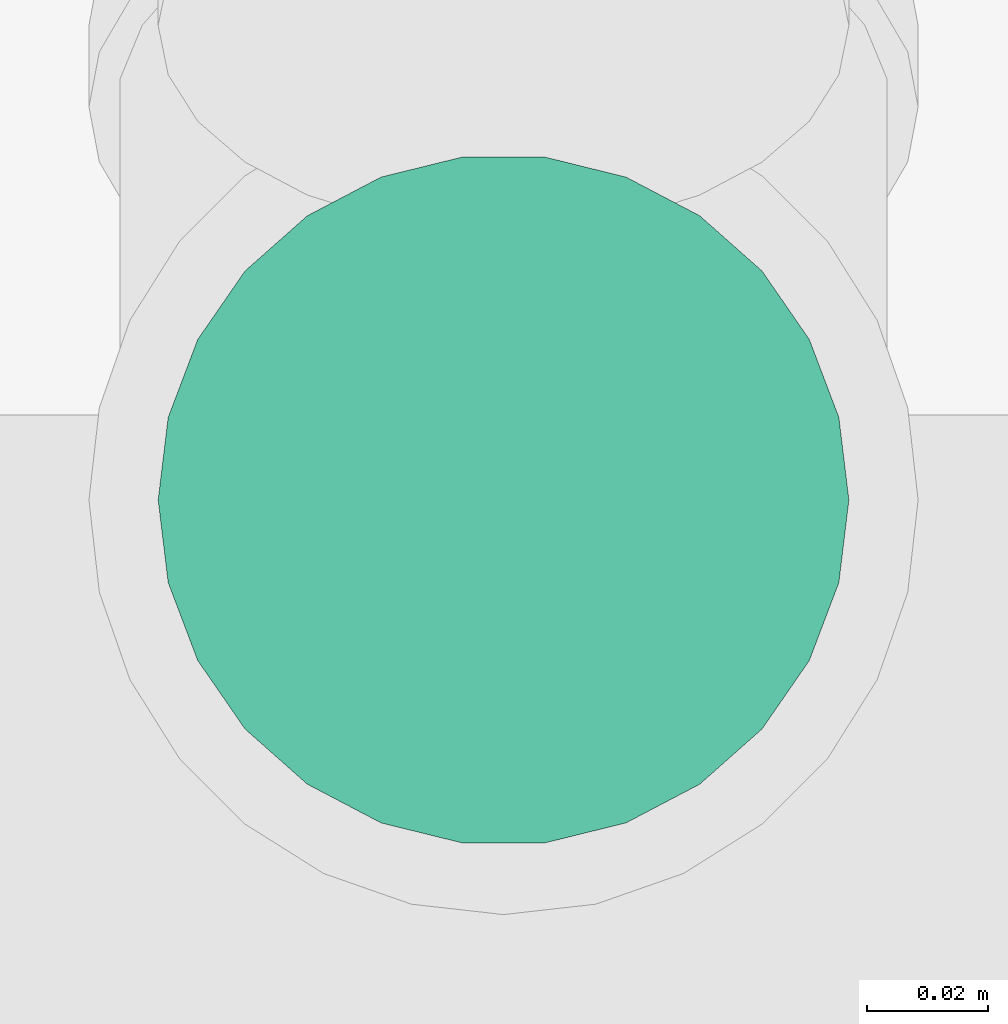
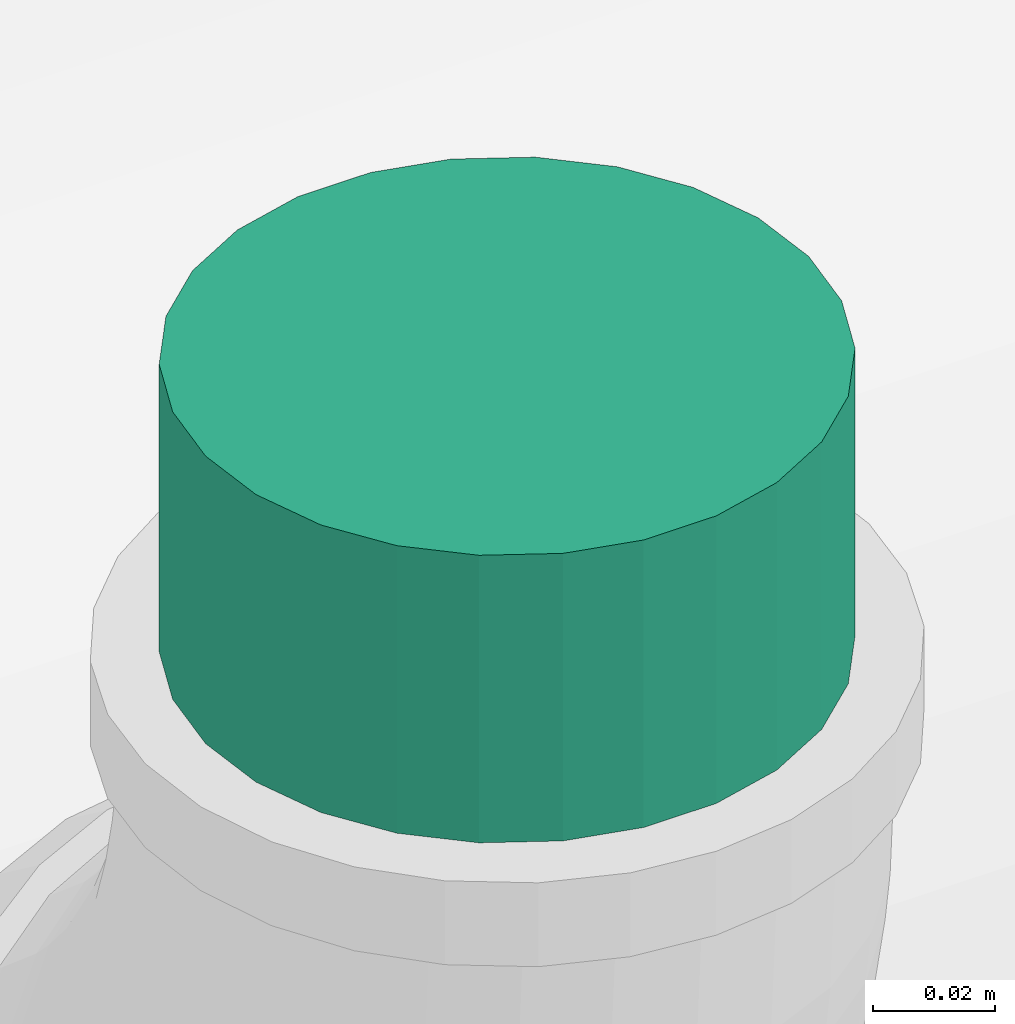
# One storey, part 78 of 108: 1 pipe segment.
"""IFC4 building model written with IfcOpenShell, lengths in feet."""

from ifc_helpers import new_model, entity, si_unit, converted_unit, derived_unit, direction, frame, origin, origin_2d_with_axis, place, context, subcontext, project, spatial, circle, extrude, type_object, element, save


model = new_model("IFC4")

# Units and contexts
model_context = context("Model", 3, precision=0.0001, world=origin(), true_north=direction((6.12303176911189e-17, 1.0)))
body_context = subcontext(model_context, "Body", "Model", "MODEL_VIEW")
ifc_project = project(units=[converted_unit("LENGTHUNIT", "FOOT", entity("IfcRatioMeasure", 0.3048), si_unit("LENGTHUNIT", "METRE"), dimensions=[1, 0, 0, 0, 0, 0, 0]), converted_unit("AREAUNIT", "SQUARE FOOT", entity("IfcRatioMeasure", 0.09290304), si_unit("AREAUNIT", "SQUARE_METRE"), dimensions=[2, 0, 0, 0, 0, 0, 0]), converted_unit("VOLUMEUNIT", "CUBIC FOOT", entity("IfcRatioMeasure", 0.028316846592), si_unit("VOLUMEUNIT", "CUBIC_METRE"), dimensions=[3, 0, 0, 0, 0, 0, 0]), converted_unit("PLANEANGLEUNIT", "DEGREE", entity("IfcRatioMeasure", 0.0174532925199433), si_unit("PLANEANGLEUNIT", "RADIAN"), dimensions=[0, 0, 0, 0, 0, 0, 0]), si_unit("MASSUNIT", "GRAM", prefix="KILO"), derived_unit("MASSDENSITYUNIT", [(si_unit("MASSUNIT", "GRAM", prefix="KILO"), 1), (si_unit("LENGTHUNIT", "METRE"), -3)]), si_unit("TIMEUNIT", "SECOND"), si_unit("FREQUENCYUNIT", "HERTZ"), si_unit("THERMODYNAMICTEMPERATUREUNIT", "DEGREE_CELSIUS"), derived_unit("THERMALTRANSMITTANCEUNIT", [(si_unit("MASSUNIT", "GRAM", prefix="KILO"), 1), (si_unit("THERMODYNAMICTEMPERATUREUNIT", "KELVIN"), -1), (si_unit("TIMEUNIT", "SECOND"), -3)]), derived_unit("VOLUMETRICFLOWRATEUNIT", [(si_unit("LENGTHUNIT", "METRE"), 3), (si_unit("TIMEUNIT", "SECOND"), -1)]), si_unit("ELECTRICCURRENTUNIT", "AMPERE"), si_unit("ELECTRICVOLTAGEUNIT", "VOLT"), si_unit("POWERUNIT", "WATT"), si_unit("FORCEUNIT", "NEWTON"), si_unit("ILLUMINANCEUNIT", "LUX"), si_unit("LUMINOUSFLUXUNIT", "LUMEN"), si_unit("LUMINOUSINTENSITYUNIT", "CANDELA"), derived_unit("USERDEFINED", [(si_unit("MASSUNIT", "GRAM", prefix="KILO"), -1), (si_unit("LENGTHUNIT", "METRE"), -2), (si_unit("TIMEUNIT", "SECOND"), 3), (si_unit("LUMINOUSFLUXUNIT", "LUMEN"), 1)]), derived_unit("LINEARVELOCITYUNIT", [(si_unit("LENGTHUNIT", "METRE"), 1), (si_unit("TIMEUNIT", "SECOND"), -1)]), si_unit("PRESSUREUNIT", "PASCAL"), derived_unit("USERDEFINED", [(si_unit("LENGTHUNIT", "METRE"), -2), (si_unit("MASSUNIT", "GRAM", prefix="KILO"), 1), (si_unit("TIMEUNIT", "SECOND"), -2)])], contexts=[model_context])

# Site, building, storey
site_placement = place(None, origin())
site = spatial("IfcSite", under=ifc_project, at=site_placement, Name="Default", CompositionType="ELEMENT")
building_placement = place(site_placement, origin())
building = spatial("IfcBuilding", under=site, at=building_placement, CompositionType="ELEMENT")
storey_placement = place(building_placement, frame((0.0, 0.0, 168.0)))
storey = spatial("IfcBuildingStorey", under=building, at=storey_placement, Name="Level 15", CompositionType="ELEMENT", Elevation=168.0)

# Pipe segment
pipe_segment_type = type_object("IfcPipeSegmentType", Name="Pipe Types:Hydronic", PredefinedType="NOTDEFINED")
pipe_segment_placement = place(storey_placement, frame((20.7044396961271, -19.9585028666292, 11.8943256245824)))
element("IfcPipeSegment", 1, at=pipe_segment_placement, inside=storey, type_object=pipe_segment_type, Name="Pipe Types:Hydronic", ObjectType="Pipe Types:Hydronic", PredefinedType="NOTDEFINED", context=body_context, shape_type="SweptSolid", body=[
    extrude(circle(Radius=0.1875, at=origin_2d_with_axis()), frame((0.192733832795, 0.192733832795, 0.0), z_axis=(0.0, 0.0, 1.0), x_axis=(-1.0, 0.0, 0.0)), (0.0, 0.0, 1.0), 0.189007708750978),
])

save(model, "model.ifc")
